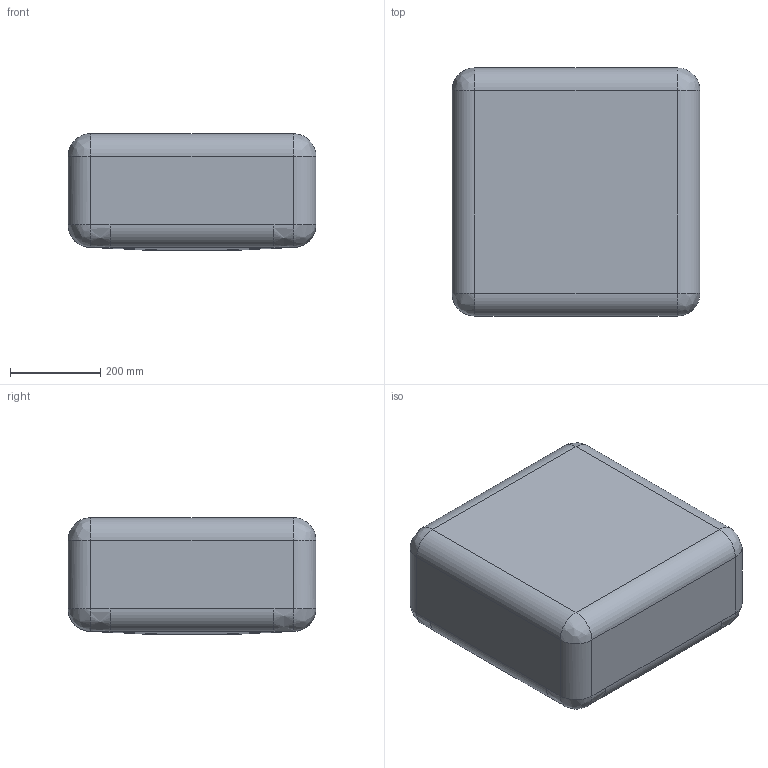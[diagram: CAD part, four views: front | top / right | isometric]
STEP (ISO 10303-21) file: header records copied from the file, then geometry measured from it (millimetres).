
FILE_DESCRIPTION(/* description */ (''),/* implementation_level */ '2;1');
FILE_NAME(/* name */ '550x550',/* time_stamp */ '2024-03-12T17:07:17+01:00',/* author */ (''),/* organization */ (''),/* preprocessor_version */ 'ST-DEVELOPER v16.5',/* originating_system */ 'Rhino 7.35',/* authorisation */ '');
FILE_SCHEMA (('AUTOMOTIVE_DESIGN'));
Length unit declared in the file: millimetre
Products named in the file (1): Document
Bounding box: 550 x 550 x 258.5 mm (x, y, z)
Volume: 5833937.1 mm3; surface area: 1954336.3 mm2
Topology: 1 solids, 1 shells, 131 faces, 288 edges, 160 vertices
Faces by surface type: bspline 131
Entity records: 23362 total; most frequent: CARTESIAN_POINT 19674, B_SPLINE_CURVE_WITH_KNOTS 728, ORIENTED_EDGE 576, PCURVE 576, DEFINITIONAL_REPRESENTATION 576, SURFACE_CURVE 288, EDGE_CURVE 288, VERTEX_POINT 160
